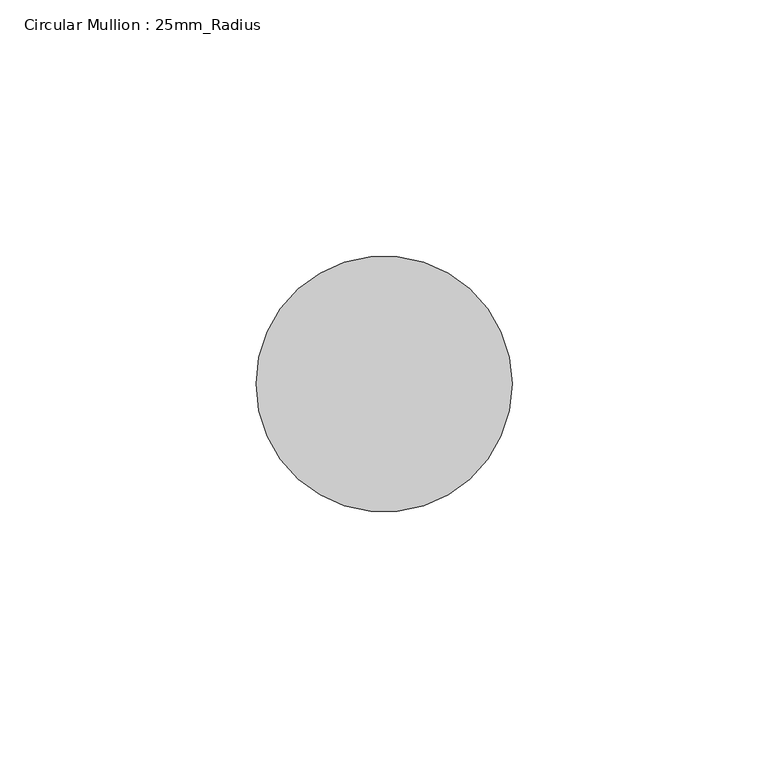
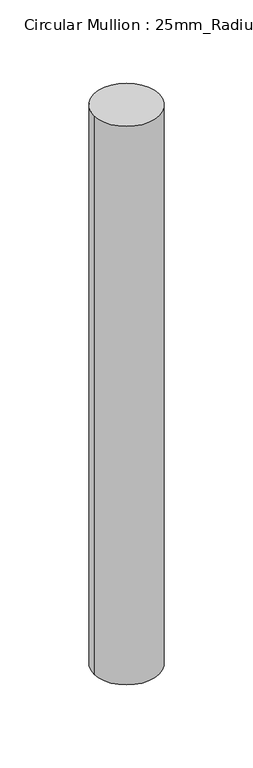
"""IFC4 building model written with IfcOpenShell, lengths in millimetres: member geometry, Circular Mullion : 25mm_Radius."""

from ifc_helpers import new_model, si_unit, point, frame, frame_2d, origin, place, context, project, spatial, circle_curve, trimmed, segment, composite_curve, outline, extrude, source, transform, mapped, element, save


def circular_mullion_25mm_radius_1cd2c026(model_context):
    return source(origin(), model_context, "Body", "SweptSolid", [
        extrude(outline(composite_curve([segment(trimmed(circle_curve(frame_2d((-25.0, 0.0)), 25.0), [point((0.0, 0.0))], [point((-50.0, 0.0))], False, "CARTESIAN"), True, "CONTINUOUS"), segment(trimmed(circle_curve(frame_2d((-25.0, 0.0)), 25.0), [point((-50.0, 0.0))], [point((0.0, 0.0))], False, "CARTESIAN"), True, "CONTINUOUS")], self_intersect=False)), frame((0.0, 0.0, -452.7911174), z_axis=(0.0, 0.0, 1.0), x_axis=(1.0, 0.0, 0.0)), (0.0, 0.0, 1.0), 452.7911174),
    ])


if __name__ == "__main__":
    model = new_model("IFC4")
    model_context = context("Model", 3, world=origin())
    ifc_project = project(units=[si_unit("LENGTHUNIT", "METRE", prefix="MILLI")], contexts=[model_context])
    site = spatial("IfcSite", under=ifc_project)
    building = spatial("IfcBuilding", under=site)
    placement = place(None, origin())
    circular_mullion_25mm_radius_shape = circular_mullion_25mm_radius_1cd2c026(model_context)
    element("IfcMember", 1, ObjectType="Circular Mullion : 25mm_Radius", at=placement, inside=building, context=model_context, shape_type="MappedRepresentation", body=[
        mapped(circular_mullion_25mm_radius_shape, transform((0.0, 0.0, 0.0), x_axis=(1.0, 0.0, 0.0), y_axis=(0.0, 1.0, 0.0), z_axis=(0.0, 0.0, 1.0))),
    ])
    save(model, "model.ifc")
